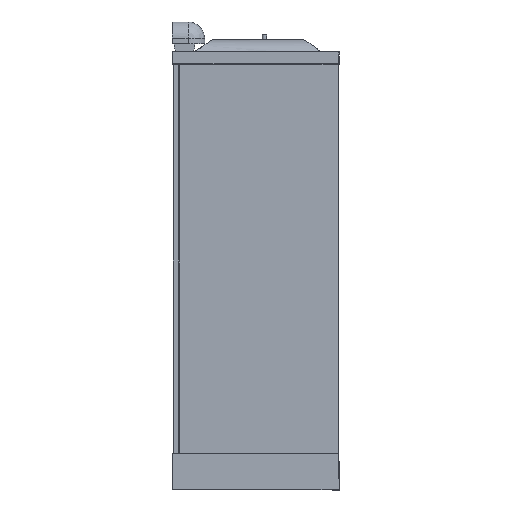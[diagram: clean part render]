
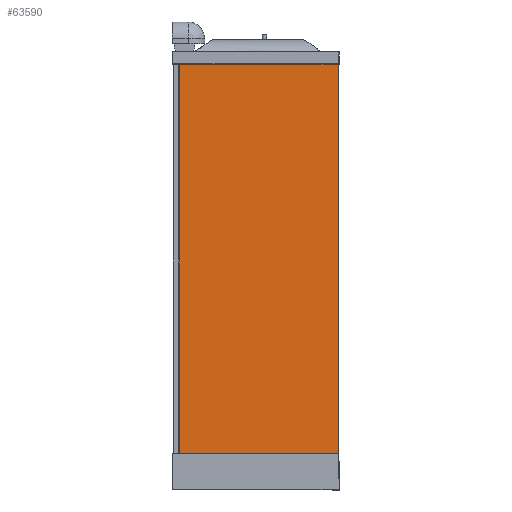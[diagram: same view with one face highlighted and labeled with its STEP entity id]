
A CAD part, left-side view. The second image highlights one B-rep face of the part: STEP entity #63590.
In plain terms, the highlighted free-form (B-spline) face has degree [1, 1] with [2, 2] control points.
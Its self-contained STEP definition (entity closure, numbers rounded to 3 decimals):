
#63502=CARTESIAN_POINT('',(-998.527,-789.402,173.92));
#63503=VERTEX_POINT('',#63502);
#63511=CARTESIAN_POINT('',(-998.527,-801.902,173.92));
#63512=VERTEX_POINT('',#63511);
#63519=CARTESIAN_POINT('',(-998.527,-801.902,173.92));
#63520=DIRECTION('',(0.0,1.0,0.0));
#63521=VECTOR('',#63520,12.5);
#63522=LINE('',#63519,#63521);
#63523=EDGE_CURVE('',#63512,#63503,#63522,.T.);
#63528=CARTESIAN_POINT('',(-998.527,-35.322,2063.14));
#63529=CARTESIAN_POINT('',(-998.527,-801.982,2063.14));
#63530=CARTESIAN_POINT('',(-998.527,-35.322,162.98));
#63531=CARTESIAN_POINT('',(-998.527,-801.982,162.98));
#63532=B_SPLINE_SURFACE_WITH_KNOTS('',1,1,((#63528,#63530),(#63529,#63531)),.UNSPECIFIED.,.F.,.F.,.U.,(2,2),(2,2),(82.959,849.619),(73.049,1973.209),.UNSPECIFIED.);
#63533=CARTESIAN_POINT('',(-998.527,-789.402,163.06));
#63534=VERTEX_POINT('',#63533);
#63535=CARTESIAN_POINT('',(-998.527,-789.402,173.92));
#63536=DIRECTION('',(0.0,0.0,-1.0));
#63537=VECTOR('',#63536,10.86);
#63538=LINE('',#63535,#63537);
#63539=EDGE_CURVE('',#63503,#63534,#63538,.T.);
#63540=ORIENTED_EDGE('',*,*,#63539,.F.);
#63541=ORIENTED_EDGE('',*,*,#63523,.F.);
#63542=CARTESIAN_POINT('',(-998.527,-801.902,2051.92));
#63543=VERTEX_POINT('',#63542);
#63544=CARTESIAN_POINT('',(-998.527,-801.902,2051.92));
#63545=DIRECTION('',(0.0,0.0,-1.0));
#63546=VECTOR('',#63545,1878.);
#63547=LINE('',#63544,#63546);
#63548=EDGE_CURVE('',#63543,#63512,#63547,.T.);
#63549=ORIENTED_EDGE('',*,*,#63548,.F.);
#63550=CARTESIAN_POINT('',(-998.527,-789.402,2051.92));
#63551=VERTEX_POINT('',#63550);
#63552=CARTESIAN_POINT('',(-998.527,-789.402,2051.92));
#63553=DIRECTION('',(0.0,-1.0,0.0));
#63554=VECTOR('',#63553,12.5);
#63555=LINE('',#63552,#63554);
#63556=EDGE_CURVE('',#63551,#63543,#63555,.T.);
#63557=ORIENTED_EDGE('',*,*,#63556,.F.);
#63558=CARTESIAN_POINT('',(-998.527,-789.402,2063.06));
#63559=VERTEX_POINT('',#63558);
#63560=CARTESIAN_POINT('',(-998.527,-789.402,2063.06));
#63561=DIRECTION('',(0.0,0.0,-1.0));
#63562=VECTOR('',#63561,11.14);
#63563=LINE('',#63560,#63562);
#63564=EDGE_CURVE('',#63559,#63551,#63563,.T.);
#63565=ORIENTED_EDGE('',*,*,#63564,.F.);
#63566=CARTESIAN_POINT('',(-998.527,-35.402,2063.06));
#63567=VERTEX_POINT('',#63566);
#63568=CARTESIAN_POINT('',(-998.527,-35.402,2063.06));
#63569=DIRECTION('',(0.0,-1.0,0.0));
#63570=VECTOR('',#63569,754.);
#63571=LINE('',#63568,#63570);
#63572=EDGE_CURVE('',#63567,#63559,#63571,.T.);
#63573=ORIENTED_EDGE('',*,*,#63572,.F.);
#63574=CARTESIAN_POINT('',(-998.527,-35.402,163.06));
#63575=VERTEX_POINT('',#63574);
#63576=CARTESIAN_POINT('',(-998.527,-35.402,163.06));
#63577=DIRECTION('',(0.0,0.0,1.0));
#63578=VECTOR('',#63577,1900.);
#63579=LINE('',#63576,#63578);
#63580=EDGE_CURVE('',#63575,#63567,#63579,.T.);
#63581=ORIENTED_EDGE('',*,*,#63580,.F.);
#63582=CARTESIAN_POINT('',(-998.527,-789.402,163.06));
#63583=DIRECTION('',(0.0,1.0,0.0));
#63584=VECTOR('',#63583,754.);
#63585=LINE('',#63582,#63584);
#63586=EDGE_CURVE('',#63534,#63575,#63585,.T.);
#63587=ORIENTED_EDGE('',*,*,#63586,.F.);
#63588=EDGE_LOOP('',(#63540,#63541,#63549,#63557,#63565,#63573,#63581,#63587));
#63589=FACE_OUTER_BOUND('',#63588,.T.);
#63590=ADVANCED_FACE('',(#63589),#63532,.F.);
